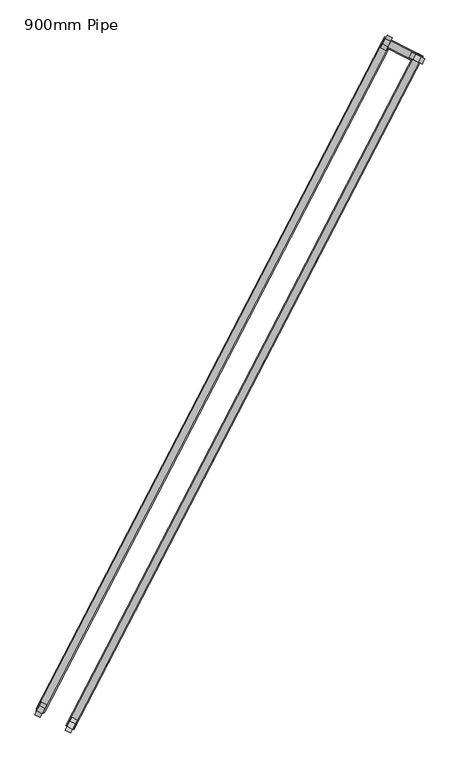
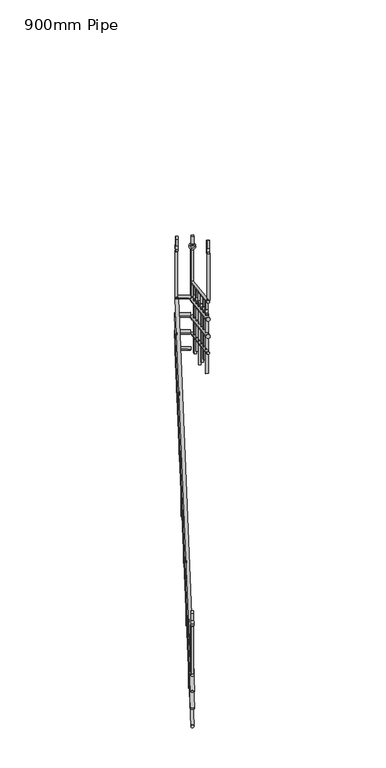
"""IFC4 building model written with IfcOpenShell, lengths in millimetres: railing geometry, 900mm Pipe."""

from ifc_helpers import new_model, si_unit, point, frame, frame_2d, origin, place, context, project, spatial, polyline, circle_curve, ellipse_curve, trimmed, segment, composite_curve, outline, extrude, source, transform, mapped, element, save
from ifc_brep_helpers import plane_surface, cylinder_surface, advanced_brep


def railing_900mm_pipe_73249b27(model_context):
    return source(origin(), model_context, "Body", "SolidModel", [
        advanced_brep(
        [(7201.7798218, -26010.5348664, 871.7326365), (7228.4133798, -26024.3426029, 871.7326365), (8722.6784852, -23076.8937909, 2958.6842105), (8749.3120432, -23090.7015273, 2958.6842105), (8725.3167563, -23071.804865, 2958.6842105), (8752.0624335, -23085.3963363, 2958.6842105)],
        [
            (0, 1, ellipse_curve(frame((7215.0966008, -26017.4387346, 871.7326365), z_axis=(-0.4602578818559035, -0.8877852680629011, 0.0), x_axis=(0.0, 0.0, -1.0)), 17.7410477, 15.0)),
            (1, 0, ellipse_curve(frame((7215.0966008, -26017.4387346, 871.7326365), z_axis=(-0.4602578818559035, -0.8877852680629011, 0.0), x_axis=(0.0, 0.0, -1.0)), 17.7410477, 15.0)),
            (0, 2),
            (2, 3, ellipse_curve(frame((8735.9952642, -23083.7976591, 2958.6842105), z_axis=(-0.44212277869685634, -0.852804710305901, -0.2779416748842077), x_axis=(0.12792484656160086, 0.246752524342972, -0.960597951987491)), 15.6152738, 15.0)),
            (3, 1),
            (3, 2, ellipse_curve(frame((8735.9952642, -23083.7976591, 2958.6842105), z_axis=(-0.44212277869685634, -0.852804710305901, -0.2779416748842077), x_axis=(0.12792484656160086, 0.246752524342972, -0.960597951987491)), 15.6152738, 15.0)),
            (4, 5, ellipse_curve(frame((8738.6895949, -23078.6006006, 2958.6842105), z_axis=(0.45303410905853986, 0.8914931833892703, 0.0), x_axis=(-0.8914931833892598, 0.4530341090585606, 0.0)), 15.0004945, 15.0)),
            (5, 4, ellipse_curve(frame((8738.6895949, -23078.6006006, 2958.6842105), z_axis=(0.45303410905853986, 0.8914931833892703, 0.0), x_axis=(-0.8914931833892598, 0.4530341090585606, 0.0)), 15.0004945, 15.0)),
            (2, 4),
            (5, 3),
        ],
        [
            plane_surface(frame((7215.0966008, -26017.4387346, 889.4736842), z_axis=(-0.4602578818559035, -0.8877852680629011, 0.0), x_axis=(0.8877852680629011, -0.4602578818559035, 0.0))),
            cylinder_surface(frame((7218.7831312, -26010.3278355, 876.7912314), z_axis=(-0.3891465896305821, -0.7506196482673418, -0.5339804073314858), x_axis=(0.8877852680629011, -0.46025788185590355, 0.0)), 15.0),
            plane_surface(frame((8738.6895949, -23078.6006006, 2973.6842105), z_axis=(0.45303410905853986, 0.8914931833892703, 0.0), x_axis=(0.8914931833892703, -0.45303410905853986, 0.0))),
            cylinder_surface(frame((8733.9976827, -23087.6507673, 2958.6842105), z_axis=(-0.4602578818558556, -0.887785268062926, 0.0), x_axis=(0.887785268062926, -0.4602578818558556, 0.0)), 15.0),
        ],
        [
            (0, [[1, 2]]),
            (1, [[-1, 3, 4, 5]]),
            (1, [[-2, -5, 6, -3]]),
            (2, [[7, 8]]),
            (3, [[-4, 9, -8, 10]]),
            (3, [[-6, -10, -7, -9]]),
        ],
    ),
        advanced_brep(
        [(8739.124948, -23045.1704289, 2958.6842105), (8725.3167563, -23071.804865, 2958.6842105), (8873.566552, -23113.4902248, 2958.6842105), (8859.7583603, -23140.1246608, 2958.6842105)],
        [
            (0, 1, ellipse_curve(frame((8732.2208521, -23058.4876469, 2958.6842105), z_axis=(-0.887785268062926, 0.4602578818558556, 0.0), x_axis=(-0.4602578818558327, -0.8877852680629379, 0.0)), 15.0004945, 15.0)),
            (1, 0, ellipse_curve(frame((8732.2208521, -23058.4876469, 2958.6842105), z_axis=(-0.887785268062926, 0.4602578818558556, 0.0), x_axis=(-0.4602578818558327, -0.8877852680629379, 0.0)), 15.0004945, 15.0)),
            (2, 3, ellipse_curve(frame((8866.6624562, -23126.8074428, 2958.6842105), z_axis=(0.8877852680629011, -0.46025788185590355, 0.0), x_axis=(-0.4602578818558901, -0.887785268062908, 0.0)), 15.0004945, 15.0)),
            (3, 2, ellipse_curve(frame((8866.6624562, -23126.8074428, 2958.6842105), z_axis=(0.8877852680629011, -0.46025788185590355, 0.0), x_axis=(-0.4602578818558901, -0.887785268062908, 0.0)), 15.0004945, 15.0)),
            (0, 2),
            (3, 1),
        ],
        [
            plane_surface(frame((8732.2208521, -23058.4876469, 2973.6842105), z_axis=(-0.887785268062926, 0.4602578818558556, 0.0), x_axis=(0.4602578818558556, 0.887785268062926, 0.0))),
            plane_surface(frame((8866.6624562, -23126.8074428, 2973.6842105), z_axis=(0.8877852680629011, -0.46025788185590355, 0.0), x_axis=(0.46025788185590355, 0.8877852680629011, 0.0))),
            cylinder_surface(frame((8732.2208521, -23058.4876469, 2958.6842105), z_axis=(-0.8914931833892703, 0.45303410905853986, 0.0), x_axis=(-0.45303410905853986, -0.8914931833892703, 0.0)), 15.0),
        ],
        [
            (0, [[1, 2]]),
            (1, [[3, 4]]),
            (2, [[-1, 5, -4, 6]]),
            (2, [[-2, -6, -3, -5]]),
        ],
    ),
        advanced_brep(
        [(8900.3122292, -23127.0816961, 3119.6938755), (8873.566552, -23113.4902248, 3119.8477235), (7362.6651288, -26093.0286077, 5229.6273733), (7336.0315707, -26079.2208712, 5229.6273733)],
        [
            (0, 1, ellipse_curve(frame((8886.9393906, -23120.2859604, 3119.7707995), z_axis=(0.45303410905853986, 0.8914931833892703, 0.0), x_axis=(0.011460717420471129, -0.005824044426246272, -0.9999173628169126)), 17.7416326, 15.0)),
            (1, 0, ellipse_curve(frame((8886.9393906, -23120.2859604, 3119.7707995), z_axis=(0.45303410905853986, 0.8914931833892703, 0.0), x_axis=(0.011460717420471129, -0.005824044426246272, -0.9999173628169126)), 17.7416326, 15.0)),
            (2, 3, ellipse_curve(frame((7349.3483498, -26086.1247394, 5229.6273733), z_axis=(-0.46025788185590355, -0.8877852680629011, 0.0), x_axis=(0.0, 0.0, -1.0)), 17.7410477, 15.0)),
            (3, 2, ellipse_curve(frame((7349.3483498, -26086.1247394, 5229.6273733), z_axis=(-0.46025788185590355, -0.8877852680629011, 0.0), x_axis=(0.0, 0.0, -1.0)), 17.7410477, 15.0)),
            (0, 2),
            (3, 1),
        ],
        [
            plane_surface(frame((8886.9393906, -23120.2859604, 3137.5118473), z_axis=(0.45303410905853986, 0.8914931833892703, 0.0), x_axis=(0.8914931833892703, -0.45303410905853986, 0.0))),
            plane_surface(frame((7349.3483498, -26086.1247394, 5247.3684211), z_axis=(-0.46025788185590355, -0.8877852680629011, 0.0), x_axis=(0.8877852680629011, -0.46025788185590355, 0.0))),
            cylinder_surface(frame((8883.2528602, -23127.3968595, 3124.8293945), z_axis=(0.38914658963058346, 0.7506196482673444, -0.5339804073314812), x_axis=(-0.8877852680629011, 0.4602578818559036, 0.0)), 15.0),
        ],
        [
            (0, [[1, 2]]),
            (1, [[3, 4]]),
            (2, [[-1, 5, -4, 6]]),
            (2, [[-2, -6, -3, -5]]),
        ],
    ),
        advanced_brep(
        [(7202.2562693, -25998.7523782, 672.5637472), (7237.76768, -26017.1626935, 672.5637472), (8721.1573512, -23068.9644109, 2756.7742735), (8756.6687619, -23087.3747262, 2756.7742735)],
        [
            (0, 1, circle_curve(frame((7220.0119747, -26007.9575358, 672.5637472), z_axis=(-0.3891465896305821, -0.7506196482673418, -0.5339804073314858), x_axis=(0.8877852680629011, -0.46025788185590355, 0.0)), 20.0)),
            (1, 0, circle_curve(frame((7220.0119747, -26007.9575358, 672.5637472), z_axis=(-0.3891465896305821, -0.7506196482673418, -0.5339804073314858), x_axis=(0.8877852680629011, -0.46025788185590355, 0.0)), 20.0)),
            (2, 3, circle_curve(frame((8738.9130565, -23078.1695685, 2756.7742735), z_axis=(0.3891465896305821, 0.7506196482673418, 0.5339804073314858), x_axis=(0.8877852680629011, -0.46025788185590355, 0.0)), 20.0)),
            (3, 2, circle_curve(frame((8738.9130565, -23078.1695685, 2756.7742735), z_axis=(0.3891465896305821, 0.7506196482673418, 0.5339804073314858), x_axis=(0.8877852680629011, -0.46025788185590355, 0.0)), 20.0)),
            (0, 2),
            (3, 1),
        ],
        [
            plane_surface(frame((7215.0966008, -26040.6256391, 722.0676631), z_axis=(-0.38914658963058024, -0.7506196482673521, -0.5339804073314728), x_axis=(0.9211758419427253, -0.3170958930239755, -0.22557762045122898))),
            plane_surface(frame((8733.9976827, -23110.8376718, 2806.2781894), z_axis=(0.3891465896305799, 0.7506196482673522, 0.533980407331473), x_axis=(0.9211758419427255, -0.3170958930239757, -0.22557762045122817))),
            cylinder_surface(frame((7220.0119747, -26007.9575358, 672.5637472), z_axis=(-0.3891465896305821, -0.7506196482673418, -0.5339804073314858), x_axis=(0.8877852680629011, -0.46025788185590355, 0.0)), 20.0),
        ],
        [
            (0, [[1, 2]]),
            (1, [[3, 4]]),
            (2, [[-1, 5, -4, 6]]),
            (2, [[-2, -6, -3, -5]]),
        ],
    ),
        advanced_brep(
        [(8716.2419773, -23078.4456097, 2753.6842105), (8751.753388, -23096.855925, 2753.6842105), (8718.6325243, -23073.8345157, 2753.6842105), (8754.143935, -23092.2448309, 2753.6842105)],
        [
            (0, 1, circle_curve(frame((8733.9976827, -23087.6507673, 2753.6842105), z_axis=(-0.46025788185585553, -0.887785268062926, 0.0), x_axis=(0.887785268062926, -0.46025788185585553, 0.0)), 20.0)),
            (1, 0, circle_curve(frame((8733.9976827, -23087.6507673, 2753.6842105), z_axis=(-0.46025788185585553, -0.887785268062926, 0.0), x_axis=(0.887785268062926, -0.46025788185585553, 0.0)), 20.0)),
            (2, 3, circle_curve(frame((8736.3882296, -23083.0396733, 2753.6842105), z_axis=(0.46025788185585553, 0.887785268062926, 0.0), x_axis=(0.887785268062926, -0.46025788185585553, 0.0)), 20.0)),
            (3, 2, circle_curve(frame((8736.3882296, -23083.0396733, 2753.6842105), z_axis=(0.46025788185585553, 0.887785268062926, 0.0), x_axis=(0.887785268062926, -0.46025788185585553, 0.0)), 20.0)),
            (0, 2),
            (3, 1),
        ],
        [
            plane_surface(frame((8733.9976827, -23087.6507673, 2813.6842105), z_axis=(-0.4602578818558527, -0.8877852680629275, 0.0), x_axis=(0.8877852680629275, -0.4602578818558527, 0.0))),
            plane_surface(frame((8736.3882296, -23083.0396733, 2813.6842105), z_axis=(0.4602578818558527, 0.8877852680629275, 0.0), x_axis=(0.8877852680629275, -0.4602578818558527, 0.0))),
            cylinder_surface(frame((8733.9976827, -23087.6507673, 2753.6842105), z_axis=(-0.46025788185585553, -0.887785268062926, 0.0), x_axis=(0.887785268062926, -0.46025788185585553, 0.0)), 20.0),
        ],
        [
            (0, [[1, 2]]),
            (1, [[3, 4]]),
            (2, [[-1, 5, -4, 6]]),
            (2, [[-2, -6, -3, -5]]),
        ],
    ),
        advanced_brep(
        [(8736.9687004, -23038.466111, 2753.6842105), (8718.5577782, -23073.9786924, 2753.6842105), (8871.4103044, -23106.7859069, 2753.6842105), (8852.9993822, -23142.2984883, 2753.6842105)],
        [
            (0, 1, ellipse_curve(frame((8727.7632393, -23056.2224017, 2753.6842105), z_axis=(-0.887785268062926, 0.4602578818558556, 0.0), x_axis=(-0.4602578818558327, -0.8877852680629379, 0.0)), 20.0006593, 20.0)),
            (1, 0, ellipse_curve(frame((8727.7632393, -23056.2224017, 2753.6842105), z_axis=(-0.887785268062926, 0.4602578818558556, 0.0), x_axis=(-0.4602578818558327, -0.8877852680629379, 0.0)), 20.0006593, 20.0)),
            (2, 3, ellipse_curve(frame((8862.2048433, -23124.5421976, 2753.6842105), z_axis=(0.8877852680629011, -0.46025788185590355, 0.0), x_axis=(-0.4602578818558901, -0.887785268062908, 0.0)), 20.0006593, 20.0)),
            (3, 2, ellipse_curve(frame((8862.2048433, -23124.5421976, 2753.6842105), z_axis=(0.8877852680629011, -0.46025788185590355, 0.0), x_axis=(-0.4602578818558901, -0.887785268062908, 0.0)), 20.0006593, 20.0)),
            (0, 2),
            (3, 1),
        ],
        [
            plane_surface(frame((8727.7632393, -23056.2224017, 2773.6842105), z_axis=(-0.887785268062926, 0.4602578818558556, 0.0), x_axis=(0.4602578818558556, 0.887785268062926, 0.0))),
            plane_surface(frame((8862.2048433, -23124.5421976, 2773.6842105), z_axis=(0.8877852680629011, -0.46025788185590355, 0.0), x_axis=(0.46025788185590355, 0.8877852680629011, 0.0))),
            cylinder_surface(frame((8727.7632393, -23056.2224017, 2753.6842105), z_axis=(-0.8914931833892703, 0.45303410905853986, 0.0), x_axis=(-0.45303410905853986, -0.8914931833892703, 0.0)), 20.0),
        ],
        [
            (0, [[1, 2]]),
            (1, [[3, 4]]),
            (2, [[-1, 5, -4, 6]]),
            (2, [[-2, -6, -3, -5]]),
        ],
    ),
        advanced_brep(
        [(8907.0712073, -23124.9078686, 2910.5966569), (8871.4103044, -23106.7859069, 2910.8017876), (7367.1040551, -26095.3298971, 5023.7136907), (7331.5926444, -26076.9195818, 5023.7136907)],
        [
            (0, 1, ellipse_curve(frame((8889.2407559, -23115.8468877, 2910.6992222), z_axis=(0.45303410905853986, 0.8914931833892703, 0.0), x_axis=(0.011460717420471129, -0.005824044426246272, -0.9999173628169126)), 23.6555102, 20.0)),
            (1, 0, ellipse_curve(frame((8889.2407559, -23115.8468877, 2910.6992222), z_axis=(0.45303410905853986, 0.8914931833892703, 0.0), x_axis=(0.011460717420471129, -0.005824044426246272, -0.9999173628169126)), 23.6555102, 20.0)),
            (2, 3, ellipse_curve(frame((7349.3483498, -26086.1247394, 5023.7136907), z_axis=(-0.46025788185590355, -0.8877852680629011, 0.0), x_axis=(0.0, 0.0, -1.0)), 23.6547303, 20.0)),
            (3, 2, ellipse_curve(frame((7349.3483498, -26086.1247394, 5023.7136907), z_axis=(-0.46025788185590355, -0.8877852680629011, 0.0), x_axis=(0.0, 0.0, -1.0)), 23.6547303, 20.0)),
            (0, 2),
            (3, 1),
        ],
        [
            plane_surface(frame((8889.2407559, -23115.8468877, 2934.3539525), z_axis=(0.45303410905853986, 0.8914931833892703, 0.0), x_axis=(0.8914931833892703, -0.45303410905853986, 0.0))),
            plane_surface(frame((7349.3483498, -26086.1247394, 5047.3684211), z_axis=(-0.46025788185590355, -0.8877852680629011, 0.0), x_axis=(0.8877852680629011, -0.46025788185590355, 0.0))),
            cylinder_surface(frame((8884.325382, -23125.3280865, 2917.4440155), z_axis=(0.38914658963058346, 0.7506196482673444, -0.5339804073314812), x_axis=(-0.8877852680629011, 0.4602578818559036, 0.0)), 20.0),
        ],
        [
            (0, [[1, 2]]),
            (1, [[3, 4]]),
            (2, [[-1, 5, -4, 6]]),
            (2, [[-2, -6, -3, -5]]),
        ],
    ),
        advanced_brep(
        [(7202.2562693, -25998.7523782, 472.5637472), (7237.76768, -26017.1626935, 472.5637472), (8721.1573512, -23068.9644109, 2556.7742735), (8756.6687619, -23087.3747262, 2556.7742735)],
        [
            (0, 1, circle_curve(frame((7220.0119747, -26007.9575358, 472.5637472), z_axis=(-0.3891465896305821, -0.7506196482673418, -0.5339804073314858), x_axis=(0.8877852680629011, -0.46025788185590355, 0.0)), 20.0)),
            (1, 0, circle_curve(frame((7220.0119747, -26007.9575358, 472.5637472), z_axis=(-0.3891465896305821, -0.7506196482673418, -0.5339804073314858), x_axis=(0.8877852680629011, -0.46025788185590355, 0.0)), 20.0)),
            (2, 3, circle_curve(frame((8738.9130565, -23078.1695685, 2556.7742735), z_axis=(0.3891465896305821, 0.7506196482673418, 0.5339804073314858), x_axis=(0.8877852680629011, -0.46025788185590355, 0.0)), 20.0)),
            (3, 2, circle_curve(frame((8738.9130565, -23078.1695685, 2556.7742735), z_axis=(0.3891465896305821, 0.7506196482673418, 0.5339804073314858), x_axis=(0.8877852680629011, -0.46025788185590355, 0.0)), 20.0)),
            (0, 2),
            (3, 1),
        ],
        [
            plane_surface(frame((7215.0966008, -26040.6256391, 522.0676631), z_axis=(-0.38914658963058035, -0.7506196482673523, -0.5339804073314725), x_axis=(0.9211758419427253, -0.3170958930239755, -0.22557762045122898))),
            plane_surface(frame((8733.9976827, -23110.8376718, 2606.2781894), z_axis=(0.3891465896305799, 0.7506196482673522, 0.533980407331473), x_axis=(0.9211758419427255, -0.3170958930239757, -0.22557762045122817))),
            cylinder_surface(frame((7220.0119747, -26007.9575358, 472.5637472), z_axis=(-0.3891465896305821, -0.7506196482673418, -0.5339804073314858), x_axis=(0.8877852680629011, -0.46025788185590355, 0.0)), 20.0),
        ],
        [
            (0, [[1, 2]]),
            (1, [[3, 4]]),
            (2, [[-1, 5, -4, 6]]),
            (2, [[-2, -6, -3, -5]]),
        ],
    ),
        advanced_brep(
        [(8716.2419773, -23078.4456097, 2553.6842105), (8751.753388, -23096.855925, 2553.6842105), (8718.6325243, -23073.8345157, 2553.6842105), (8754.143935, -23092.2448309, 2553.6842105)],
        [
            (0, 1, circle_curve(frame((8733.9976827, -23087.6507673, 2553.6842105), z_axis=(-0.46025788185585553, -0.887785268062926, 0.0), x_axis=(0.887785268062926, -0.46025788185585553, 0.0)), 20.0)),
            (1, 0, circle_curve(frame((8733.9976827, -23087.6507673, 2553.6842105), z_axis=(-0.46025788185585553, -0.887785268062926, 0.0), x_axis=(0.887785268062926, -0.46025788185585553, 0.0)), 20.0)),
            (2, 3, circle_curve(frame((8736.3882296, -23083.0396733, 2553.6842105), z_axis=(0.46025788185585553, 0.887785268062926, 0.0), x_axis=(0.887785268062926, -0.46025788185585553, 0.0)), 20.0)),
            (3, 2, circle_curve(frame((8736.3882296, -23083.0396733, 2553.6842105), z_axis=(0.46025788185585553, 0.887785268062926, 0.0), x_axis=(0.887785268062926, -0.46025788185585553, 0.0)), 20.0)),
            (0, 2),
            (3, 1),
        ],
        [
            plane_surface(frame((8733.9976827, -23087.6507673, 2613.6842105), z_axis=(-0.4602578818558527, -0.8877852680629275, 0.0), x_axis=(0.8877852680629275, -0.4602578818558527, 0.0))),
            plane_surface(frame((8736.3882296, -23083.0396733, 2613.6842105), z_axis=(0.4602578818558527, 0.8877852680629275, 0.0), x_axis=(0.8877852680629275, -0.4602578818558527, 0.0))),
            cylinder_surface(frame((8733.9976827, -23087.6507673, 2553.6842105), z_axis=(-0.46025788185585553, -0.887785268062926, 0.0), x_axis=(0.887785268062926, -0.46025788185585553, 0.0)), 20.0),
        ],
        [
            (0, [[1, 2]]),
            (1, [[3, 4]]),
            (2, [[-1, 5, -4, 6]]),
            (2, [[-2, -6, -3, -5]]),
        ],
    ),
        advanced_brep(
        [(8736.9687004, -23038.466111, 2553.6842105), (8718.5577782, -23073.9786924, 2553.6842105), (8871.4103044, -23106.7859069, 2553.6842105), (8852.9993822, -23142.2984883, 2553.6842105)],
        [
            (0, 1, ellipse_curve(frame((8727.7632393, -23056.2224017, 2553.6842105), z_axis=(-0.887785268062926, 0.4602578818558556, 0.0), x_axis=(-0.4602578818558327, -0.8877852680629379, 0.0)), 20.0006593, 20.0)),
            (1, 0, ellipse_curve(frame((8727.7632393, -23056.2224017, 2553.6842105), z_axis=(-0.887785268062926, 0.4602578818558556, 0.0), x_axis=(-0.4602578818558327, -0.8877852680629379, 0.0)), 20.0006593, 20.0)),
            (2, 3, ellipse_curve(frame((8862.2048433, -23124.5421976, 2553.6842105), z_axis=(0.8877852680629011, -0.46025788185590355, 0.0), x_axis=(-0.4602578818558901, -0.887785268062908, 0.0)), 20.0006593, 20.0)),
            (3, 2, ellipse_curve(frame((8862.2048433, -23124.5421976, 2553.6842105), z_axis=(0.8877852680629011, -0.46025788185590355, 0.0), x_axis=(-0.4602578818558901, -0.887785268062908, 0.0)), 20.0006593, 20.0)),
            (0, 2),
            (3, 1),
        ],
        [
            plane_surface(frame((8727.7632393, -23056.2224017, 2573.6842105), z_axis=(-0.887785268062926, 0.4602578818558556, 0.0), x_axis=(0.4602578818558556, 0.887785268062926, 0.0))),
            plane_surface(frame((8862.2048433, -23124.5421976, 2573.6842105), z_axis=(0.8877852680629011, -0.46025788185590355, 0.0), x_axis=(0.46025788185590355, 0.8877852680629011, 0.0))),
            cylinder_surface(frame((8727.7632393, -23056.2224017, 2553.6842105), z_axis=(-0.8914931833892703, 0.45303410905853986, 0.0), x_axis=(-0.45303410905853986, -0.8914931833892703, 0.0)), 20.0),
        ],
        [
            (0, [[1, 2]]),
            (1, [[3, 4]]),
            (2, [[-1, 5, -4, 6]]),
            (2, [[-2, -6, -3, -5]]),
        ],
    ),
        advanced_brep(
        [(8907.0712073, -23124.9078686, 2710.5966569), (8871.4103044, -23106.7859069, 2710.8017876), (7367.1040551, -26095.3298971, 4823.7136907), (7331.5926444, -26076.9195818, 4823.7136907)],
        [
            (0, 1, ellipse_curve(frame((8889.2407559, -23115.8468877, 2710.6992222), z_axis=(0.45303410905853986, 0.8914931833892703, 0.0), x_axis=(0.011460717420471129, -0.005824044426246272, -0.9999173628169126)), 23.6555102, 20.0)),
            (1, 0, ellipse_curve(frame((8889.2407559, -23115.8468877, 2710.6992222), z_axis=(0.45303410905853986, 0.8914931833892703, 0.0), x_axis=(0.011460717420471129, -0.005824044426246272, -0.9999173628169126)), 23.6555102, 20.0)),
            (2, 3, ellipse_curve(frame((7349.3483498, -26086.1247394, 4823.7136907), z_axis=(-0.46025788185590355, -0.8877852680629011, 0.0), x_axis=(0.0, 0.0, -1.0)), 23.6547303, 20.0)),
            (3, 2, ellipse_curve(frame((7349.3483498, -26086.1247394, 4823.7136907), z_axis=(-0.46025788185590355, -0.8877852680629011, 0.0), x_axis=(0.0, 0.0, -1.0)), 23.6547303, 20.0)),
            (0, 2),
            (3, 1),
        ],
        [
            plane_surface(frame((8889.2407559, -23115.8468877, 2734.3539525), z_axis=(0.45303410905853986, 0.8914931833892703, 0.0), x_axis=(0.8914931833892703, -0.45303410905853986, 0.0))),
            plane_surface(frame((7349.3483498, -26086.1247394, 4847.3684211), z_axis=(-0.46025788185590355, -0.8877852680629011, 0.0), x_axis=(0.8877852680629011, -0.46025788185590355, 0.0))),
            cylinder_surface(frame((8884.325382, -23125.3280865, 2717.4440155), z_axis=(0.38914658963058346, 0.7506196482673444, -0.5339804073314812), x_axis=(-0.8877852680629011, 0.4602578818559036, 0.0)), 20.0),
        ],
        [
            (0, [[1, 2]]),
            (1, [[3, 4]]),
            (2, [[-1, 5, -4, 6]]),
            (2, [[-2, -6, -3, -5]]),
        ],
    ),
        advanced_brep(
        [(7201.7798218, -26010.5348664, 271.7326365), (7228.4133798, -26024.3426029, 271.7326365), (8722.6784852, -23076.8937909, 2358.6842105), (8749.3120432, -23090.7015273, 2358.6842105), (8725.3167563, -23071.804865, 2358.6842105), (8752.0624335, -23085.3963363, 2358.6842105)],
        [
            (0, 1, ellipse_curve(frame((7215.0966008, -26017.4387346, 271.7326365), z_axis=(-0.4602578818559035, -0.8877852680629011, 0.0), x_axis=(0.0, 0.0, -1.0)), 17.7410477, 15.0)),
            (1, 0, ellipse_curve(frame((7215.0966008, -26017.4387346, 271.7326365), z_axis=(-0.4602578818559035, -0.8877852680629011, 0.0), x_axis=(0.0, 0.0, -1.0)), 17.7410477, 15.0)),
            (0, 2),
            (2, 3, ellipse_curve(frame((8735.9952642, -23083.7976591, 2358.6842105), z_axis=(-0.44212277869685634, -0.852804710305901, -0.2779416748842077), x_axis=(0.12792484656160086, 0.246752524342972, -0.960597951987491)), 15.6152738, 15.0)),
            (3, 1),
            (3, 2, ellipse_curve(frame((8735.9952642, -23083.7976591, 2358.6842105), z_axis=(-0.44212277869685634, -0.852804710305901, -0.2779416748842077), x_axis=(0.12792484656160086, 0.246752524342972, -0.960597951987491)), 15.6152738, 15.0)),
            (4, 5, ellipse_curve(frame((8738.6895949, -23078.6006006, 2358.6842105), z_axis=(0.45303410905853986, 0.8914931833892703, 0.0), x_axis=(-0.8914931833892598, 0.4530341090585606, 0.0)), 15.0004945, 15.0)),
            (5, 4, ellipse_curve(frame((8738.6895949, -23078.6006006, 2358.6842105), z_axis=(0.45303410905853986, 0.8914931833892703, 0.0), x_axis=(-0.8914931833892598, 0.4530341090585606, 0.0)), 15.0004945, 15.0)),
            (2, 4),
            (5, 3),
        ],
        [
            plane_surface(frame((7215.0966008, -26017.4387346, 289.4736842), z_axis=(-0.4602578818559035, -0.8877852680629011, 0.0), x_axis=(0.8877852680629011, -0.4602578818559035, 0.0))),
            cylinder_surface(frame((7218.7831312, -26010.3278355, 276.7912314), z_axis=(-0.3891465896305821, -0.7506196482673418, -0.5339804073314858), x_axis=(0.8877852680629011, -0.46025788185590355, 0.0)), 15.0),
            plane_surface(frame((8738.6895949, -23078.6006006, 2373.6842105), z_axis=(0.45303410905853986, 0.8914931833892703, 0.0), x_axis=(0.8914931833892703, -0.45303410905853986, 0.0))),
            cylinder_surface(frame((8733.9976827, -23087.6507673, 2358.6842105), z_axis=(-0.4602578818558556, -0.887785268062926, 0.0), x_axis=(0.887785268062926, -0.4602578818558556, 0.0)), 15.0),
        ],
        [
            (0, [[1, 2]]),
            (1, [[-1, 3, 4, 5]]),
            (1, [[-2, -5, 6, -3]]),
            (2, [[7, 8]]),
            (3, [[-4, 9, -8, 10]]),
            (3, [[-6, -10, -7, -9]]),
        ],
    ),
        advanced_brep(
        [(8739.124948, -23045.1704289, 2358.6842105), (8725.3167563, -23071.804865, 2358.6842105), (8873.566552, -23113.4902248, 2358.6842105), (8859.7583603, -23140.1246608, 2358.6842105)],
        [
            (0, 1, ellipse_curve(frame((8732.2208521, -23058.4876469, 2358.6842105), z_axis=(-0.887785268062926, 0.4602578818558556, 0.0), x_axis=(-0.4602578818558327, -0.8877852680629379, 0.0)), 15.0004945, 15.0)),
            (1, 0, ellipse_curve(frame((8732.2208521, -23058.4876469, 2358.6842105), z_axis=(-0.887785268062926, 0.4602578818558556, 0.0), x_axis=(-0.4602578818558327, -0.8877852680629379, 0.0)), 15.0004945, 15.0)),
            (2, 3, ellipse_curve(frame((8866.6624562, -23126.8074428, 2358.6842105), z_axis=(0.8877852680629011, -0.46025788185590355, 0.0), x_axis=(-0.4602578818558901, -0.887785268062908, 0.0)), 15.0004945, 15.0)),
            (3, 2, ellipse_curve(frame((8866.6624562, -23126.8074428, 2358.6842105), z_axis=(0.8877852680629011, -0.46025788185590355, 0.0), x_axis=(-0.4602578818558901, -0.887785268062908, 0.0)), 15.0004945, 15.0)),
            (0, 2),
            (3, 1),
        ],
        [
            plane_surface(frame((8732.2208521, -23058.4876469, 2373.6842105), z_axis=(-0.887785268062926, 0.4602578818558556, 0.0), x_axis=(0.4602578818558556, 0.887785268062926, 0.0))),
            plane_surface(frame((8866.6624562, -23126.8074428, 2373.6842105), z_axis=(0.8877852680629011, -0.46025788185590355, 0.0), x_axis=(0.46025788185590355, 0.8877852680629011, 0.0))),
            cylinder_surface(frame((8732.2208521, -23058.4876469, 2358.6842105), z_axis=(-0.8914931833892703, 0.45303410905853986, 0.0), x_axis=(-0.45303410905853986, -0.8914931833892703, 0.0)), 15.0),
        ],
        [
            (0, [[1, 2]]),
            (1, [[3, 4]]),
            (2, [[-1, 5, -4, 6]]),
            (2, [[-2, -6, -3, -5]]),
        ],
    ),
        advanced_brep(
        [(8900.3122292, -23127.0816961, 2519.6938755), (8873.566552, -23113.4902248, 2519.8477235), (7362.6651288, -26093.0286077, 4629.6273733), (7336.0315707, -26079.2208712, 4629.6273733)],
        [
            (0, 1, ellipse_curve(frame((8886.9393906, -23120.2859604, 2519.7707995), z_axis=(0.45303410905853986, 0.8914931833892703, 0.0), x_axis=(0.011460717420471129, -0.005824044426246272, -0.9999173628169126)), 17.7416326, 15.0)),
            (1, 0, ellipse_curve(frame((8886.9393906, -23120.2859604, 2519.7707995), z_axis=(0.45303410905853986, 0.8914931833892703, 0.0), x_axis=(0.011460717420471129, -0.005824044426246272, -0.9999173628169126)), 17.7416326, 15.0)),
            (2, 3, ellipse_curve(frame((7349.3483498, -26086.1247394, 4629.6273733), z_axis=(-0.46025788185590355, -0.8877852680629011, 0.0), x_axis=(0.0, 0.0, -1.0)), 17.7410477, 15.0)),
            (3, 2, ellipse_curve(frame((7349.3483498, -26086.1247394, 4629.6273733), z_axis=(-0.46025788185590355, -0.8877852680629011, 0.0), x_axis=(0.0, 0.0, -1.0)), 17.7410477, 15.0)),
            (0, 2),
            (3, 1),
        ],
        [
            plane_surface(frame((8886.9393906, -23120.2859604, 2537.5118473), z_axis=(0.45303410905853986, 0.8914931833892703, 0.0), x_axis=(0.8914931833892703, -0.45303410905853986, 0.0))),
            plane_surface(frame((7349.3483498, -26086.1247394, 4647.3684211), z_axis=(-0.46025788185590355, -0.8877852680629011, 0.0), x_axis=(0.8877852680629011, -0.46025788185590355, 0.0))),
            cylinder_surface(frame((8883.2528602, -23127.3968595, 2524.8293945), z_axis=(0.38914658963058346, 0.7506196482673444, -0.5339804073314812), x_axis=(-0.8877852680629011, 0.4602578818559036, 0.0)), 15.0),
        ],
        [
            (0, [[1, 2]]),
            (1, [[3, 4]]),
            (2, [[-1, 5, -4, 6]]),
            (2, [[-2, -6, -3, -5]]),
        ],
    ),
        extrude(outline(composite_curve([segment(trimmed(circle_curve(frame_2d((0.0, -31.7499999)), 31.75), [point((0.0, -63.4999999))], [point((0.0, 0.0))], False, "CARTESIAN"), True, "CONTINUOUS"), segment(trimmed(circle_curve(frame_2d((0.0, -31.7499999)), 31.75), [point((0.0, 0.0))], [point((0.0, -63.4999999))], False, "CARTESIAN"), True, "CONTINUOUS")], self_intersect=False), holes=[composite_curve([segment(trimmed(circle_curve(frame_2d((0.0, -31.7499999)), 12.7), [point((0.0, -44.4499999))], [point((0.0, -19.0499999))], True, "CARTESIAN"), True, "CONTINUOUS"), segment(trimmed(circle_curve(frame_2d((0.0, -31.7499999)), 12.7), [point((0.0, -19.0499999))], [point((0.0, -44.4499999))], True, "CARTESIAN"), True, "CONTINUOUS")], self_intersect=False)]), frame((7525.1497098, -25774.6170755, 4891.0411429), z_axis=(-0.887785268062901, 0.4602578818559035, 0.0), x_axis=(0.0, 0.0, 1.0000000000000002)), (0.0, 0.0, 1.0), 25.4),
        extrude(outline(polyline([(7498.1120884, -25778.4814352), (7520.6618342, -25790.1719854), (7508.971284, -25812.7217312), (7486.4215382, -25801.031181), (7498.1120884, -25778.4814352)])), frame((0.0, 0.0, 4168.4210526), z_axis=(0.0, 0.0, 1.0), x_axis=(1.0, 0.0, 0.0)), (0.0, 0.0, 1.0), 690.8700902),
        extrude(outline(polyline([(317.5, 0.0), (317.5, -25.4), (236.6207882, -25.4), (220.5792118, 0.0), (317.5, 0.0)])), frame((7504.691247, -25814.0791306, 5240.2911429), z_axis=(-0.887785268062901, 0.4602578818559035, 0.0), x_axis=(0.0, 0.0, -1.0000000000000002)), (0.0, 0.0, 1.0), 25.4),
        extrude(outline(composite_curve([segment(trimmed(circle_curve(frame_2d((0.0, -31.7500001)), 31.75), [point((0.0, -63.5000001))], [point((0.0, 0.0))], False, "CARTESIAN"), True, "CONTINUOUS"), segment(trimmed(circle_curve(frame_2d((0.0, -31.7500001)), 31.75), [point((0.0, 0.0))], [point((0.0, -63.5000001))], False, "CARTESIAN"), True, "CONTINUOUS")], self_intersect=False), holes=[composite_curve([segment(trimmed(circle_curve(frame_2d((0.0, -31.7500001)), 12.7), [point((0.0, -44.4500001))], [point((0.0, -19.0500001))], True, "CARTESIAN"), True, "CONTINUOUS"), segment(trimmed(circle_curve(frame_2d((0.0, -31.7500001)), 12.7), [point((0.0, -19.0500001))], [point((0.0, -44.4500001))], True, "CARTESIAN"), True, "CONTINUOUS")], self_intersect=False)]), frame((7755.2786508, -25330.7244414, 4575.2620794), z_axis=(-0.887785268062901, 0.4602578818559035, 0.0), x_axis=(0.0, 0.0, 1.0000000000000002)), (0.0, 0.0, 1.0), 25.4),
        extrude(outline(polyline([(7728.2410293, -25334.5888012), (7750.7907751, -25346.2793514), (7739.1002249, -25368.8290972), (7716.5504791, -25357.138547), (7728.2410293, -25334.5888012)])), frame((0.0, 0.0, 3978.9473684), z_axis=(0.0, 0.0, 1.0), x_axis=(1.0, 0.0, 0.0)), (0.0, 0.0, 1.0), 564.564711),
        extrude(outline(polyline([(317.5, 0.0), (317.5, -25.4), (236.6207882, -25.4), (220.5792118, 0.0), (317.5, 0.0)])), frame((7734.8201879, -25370.1864966, 4924.5120794), z_axis=(-0.887785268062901, 0.4602578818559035, 0.0), x_axis=(0.0, 0.0, -1.0000000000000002)), (0.0, 0.0, 1.0), 25.4),
        extrude(outline(composite_curve([segment(trimmed(circle_curve(frame_2d((0.0, -31.75)), 31.75), [point((0.0, -63.5))], [point((0.0, 0.0))], False, "CARTESIAN"), True, "CONTINUOUS"), segment(trimmed(circle_curve(frame_2d((0.0, -31.75)), 31.75), [point((0.0, 0.0))], [point((0.0, -63.5))], False, "CARTESIAN"), True, "CONTINUOUS")], self_intersect=False), holes=[composite_curve([segment(trimmed(circle_curve(frame_2d((0.0, -31.75)), 12.7), [point((0.0, -44.45))], [point((0.0, -19.05))], True, "CARTESIAN"), True, "CONTINUOUS"), segment(trimmed(circle_curve(frame_2d((0.0, -31.75)), 12.7), [point((0.0, -19.05))], [point((0.0, -44.45))], True, "CARTESIAN"), True, "CONTINUOUS")], self_intersect=False)]), frame((7985.4075917, -24886.8318074, 4259.483016), z_axis=(-0.887785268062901, 0.4602578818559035, 0.0), x_axis=(0.0, 0.0, 1.0000000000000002)), (0.0, 0.0, 1.0), 25.4),
        extrude(outline(polyline([(7958.3699702, -24890.6961671), (7980.9197161, -24902.3867173), (7969.2291659, -24924.9364631), (7946.67942, -24913.2459129), (7958.3699702, -24890.6961671)])), frame((0.0, 0.0, 3600.0), z_axis=(0.0, 0.0, 1.0), x_axis=(1.0, 0.0, 0.0)), (0.0, 0.0, 1.0), 627.733016),
        extrude(outline(polyline([(317.5, 0.0), (317.5, -25.4), (236.6207882, -25.4), (220.5792118, 0.0), (317.5, 0.0)])), frame((7964.9491289, -24926.2938626, 4608.733016), z_axis=(-0.887785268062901, 0.4602578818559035, 0.0), x_axis=(0.0, 0.0, -1.0000000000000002)), (0.0, 0.0, 1.0), 25.4),
        extrude(outline(composite_curve([segment(trimmed(circle_curve(frame_2d((0.0, -31.7499999)), 31.75), [point((0.0, -63.5))], [point((0.0, 0.0))], False, "CARTESIAN"), True, "CONTINUOUS"), segment(trimmed(circle_curve(frame_2d((0.0, -31.7499999)), 31.75), [point((0.0, 0.0))], [point((0.0, -63.5))], False, "CARTESIAN"), True, "CONTINUOUS")], self_intersect=False), holes=[composite_curve([segment(trimmed(circle_curve(frame_2d((0.0, -31.7499999)), 12.7), [point((0.0, -44.4499999))], [point((0.0, -19.0499999))], True, "CARTESIAN"), True, "CONTINUOUS"), segment(trimmed(circle_curve(frame_2d((0.0, -31.7499999)), 12.7), [point((0.0, -19.0499999))], [point((0.0, -44.4499999))], True, "CARTESIAN"), True, "CONTINUOUS")], self_intersect=False)]), frame((8215.5365326, -24442.9391734, 3943.6727218), z_axis=(-0.887785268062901, 0.4602578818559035, 0.0), x_axis=(0.0, 0.0, 1.0000000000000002)), (0.0, 0.0, 1.0), 25.4),
        extrude(outline(polyline([(8188.4989112, -24446.8035331), (8211.048657, -24458.4940833), (8199.3581068, -24481.0438291), (8176.808361, -24469.3532789), (8188.4989112, -24446.8035331)])), frame((0.0, 0.0, 3221.0526316), z_axis=(0.0, 0.0, 1.0), x_axis=(1.0, 0.0, 0.0)), (0.0, 0.0, 1.0), 690.8700902),
        extrude(outline(polyline([(317.5, 0.0), (317.5, -25.4), (236.6207882, -25.4), (220.5792118, 0.0), (317.5, 0.0)])), frame((8195.0780698, -24482.4012285, 4292.9227218), z_axis=(-0.887785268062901, 0.4602578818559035, 0.0), x_axis=(0.0, 0.0, -1.0000000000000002)), (0.0, 0.0, 1.0), 25.4),
        extrude(outline(composite_curve([segment(trimmed(circle_curve(frame_2d((0.0, -31.75)), 31.75), [point((0.0, -63.5))], [point((0.0, 0.0))], False, "CARTESIAN"), True, "CONTINUOUS"), segment(trimmed(circle_curve(frame_2d((0.0, -31.75)), 31.75), [point((0.0, 0.0))], [point((0.0, -63.5))], False, "CARTESIAN"), True, "CONTINUOUS")], self_intersect=False), holes=[composite_curve([segment(trimmed(circle_curve(frame_2d((0.0, -31.75)), 12.7), [point((0.0, -44.45))], [point((0.0, -19.05))], True, "CARTESIAN"), True, "CONTINUOUS"), segment(trimmed(circle_curve(frame_2d((0.0, -31.75)), 12.7), [point((0.0, -19.05))], [point((0.0, -44.45))], True, "CARTESIAN"), True, "CONTINUOUS")], self_intersect=False)]), frame((8445.6654736, -23999.0465394, 3627.8936584), z_axis=(-0.887785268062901, 0.4602578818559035, 0.0), x_axis=(0.0, 0.0, 1.0000000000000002)), (0.0, 0.0, 1.0), 25.4),
        extrude(outline(polyline([(8418.6278521, -24002.9108991), (8441.1775979, -24014.6014493), (8429.4870477, -24037.1511951), (8406.9373019, -24025.4606449), (8418.6278521, -24002.9108991)])), frame((0.0, 0.0, 3031.5789474), z_axis=(0.0, 0.0, 1.0), x_axis=(1.0, 0.0, 0.0)), (0.0, 0.0, 1.0), 564.564711),
        extrude(outline(polyline([(317.5, 0.0), (317.5, -25.4), (236.6207882, -25.4), (220.5792118, 0.0), (317.5, 0.0)])), frame((8425.2070107, -24038.5085945, 3977.1436584), z_axis=(-0.887785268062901, 0.4602578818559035, 0.0), x_axis=(0.0, 0.0, -1.0000000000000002)), (0.0, 0.0, 1.0), 25.4),
        extrude(outline(composite_curve([segment(trimmed(circle_curve(frame_2d((0.0, -31.7500001)), 31.75), [point((0.0, -63.5))], [point((0.0, 0.0))], False, "CARTESIAN"), True, "CONTINUOUS"), segment(trimmed(circle_curve(frame_2d((0.0, -31.7500001)), 31.75), [point((0.0, 0.0))], [point((0.0, -63.5))], False, "CARTESIAN"), True, "CONTINUOUS")], self_intersect=False), holes=[composite_curve([segment(trimmed(circle_curve(frame_2d((0.0, -31.7500001)), 12.7), [point((0.0, -44.4500001))], [point((0.0, -19.0500001))], True, "CARTESIAN"), True, "CONTINUOUS"), segment(trimmed(circle_curve(frame_2d((0.0, -31.7500001)), 12.7), [point((0.0, -19.0500001))], [point((0.0, -44.4500001))], True, "CARTESIAN"), True, "CONTINUOUS")], self_intersect=False)]), frame((8675.7944145, -23555.1539053, 3312.1145949), z_axis=(-0.887785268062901, 0.4602578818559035, 0.0), x_axis=(0.0, 0.0, 1.0000000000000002)), (0.0, 0.0, 1.0), 25.4),
        extrude(outline(polyline([(8648.756793, -23559.018265), (8671.3065388, -23570.7088152), (8659.6159886, -23593.258561), (8637.0662428, -23581.5680108), (8648.756793, -23559.018265)])), frame((0.0, 0.0, 2652.6315789), z_axis=(0.0, 0.0, 1.0), x_axis=(1.0, 0.0, 0.0)), (0.0, 0.0, 1.0), 627.733016),
        extrude(outline(polyline([(317.5, 0.0), (317.5, -25.4), (236.6207882, -25.4), (220.5792118, 0.0), (317.5, 0.0)])), frame((8655.3359516, -23594.6159605, 3661.3645949), z_axis=(-0.887785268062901, 0.4602578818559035, 0.0), x_axis=(0.0, 0.0, -1.0000000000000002)), (0.0, 0.0, 1.0), 25.4),
        extrude(outline(composite_curve([segment(trimmed(circle_curve(frame_2d((0.0, -31.7500001)), 31.75), [point((0.0, -63.5))], [point((0.0, 0.0))], False, "CARTESIAN"), True, "CONTINUOUS"), segment(trimmed(circle_curve(frame_2d((0.0, -31.7500001)), 31.75), [point((0.0, 0.0))], [point((0.0, -63.5))], False, "CARTESIAN"), True, "CONTINUOUS")], self_intersect=False), holes=[composite_curve([segment(trimmed(circle_curve(frame_2d((0.0, -31.7500001)), 12.7), [point((0.0, -44.4500001))], [point((0.0, -19.0500001))], True, "CARTESIAN"), True, "CONTINUOUS"), segment(trimmed(circle_curve(frame_2d((0.0, -31.7500001)), 12.7), [point((0.0, -19.0500001))], [point((0.0, -44.4500001))], True, "CARTESIAN"), True, "CONTINUOUS")], self_intersect=False)]), frame((8592.5319315, -23388.1153878, 2633.4980649), z_axis=(-0.8877852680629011, 0.46025788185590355, 0.0), x_axis=(0.0, 0.0, -1.0)), (0.0, 0.0, 1.0), 25.4),
        extrude(outline(polyline([(8597.0198072, -23372.5604779), (8574.4700614, -23360.8699277), (8586.1606116, -23338.3201819), (8608.7103574, -23350.0107321), (8597.0198072, -23372.5604779)])), frame((0.0, 0.0, 2084.1480649), z_axis=(0.0, 0.0, 1.0), x_axis=(1.0, 0.0, 0.0)), (0.0, 0.0, 1.0), 517.6),
        extrude(outline(polyline([(317.5, 0.0), (317.5, -25.4), (220.5792118, -25.4), (236.6207882, 0.0), (317.5, 0.0)])), frame((8601.2998442, -23371.2030784, 2982.7480649), z_axis=(-0.8877852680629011, 0.46025788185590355, 0.0), x_axis=(0.0, 0.0, -1.0)), (0.0, 0.0, 1.0), 25.4),
        extrude(outline(composite_curve([segment(trimmed(circle_curve(frame_2d((0.0, -31.75)), 31.75), [point((0.0, -63.5))], [point((0.0, 0.0))], False, "CARTESIAN"), True, "CONTINUOUS"), segment(trimmed(circle_curve(frame_2d((0.0, -31.75)), 31.75), [point((0.0, 0.0))], [point((0.0, -63.5))], False, "CARTESIAN"), True, "CONTINUOUS")], self_intersect=False), holes=[composite_curve([segment(trimmed(circle_curve(frame_2d((0.0, -31.75)), 12.7), [point((0.0, -44.45))], [point((0.0, -19.05))], True, "CARTESIAN"), True, "CONTINUOUS"), segment(trimmed(circle_curve(frame_2d((0.0, -31.75)), 12.7), [point((0.0, -19.05))], [point((0.0, -44.45))], True, "CARTESIAN"), True, "CONTINUOUS")], self_intersect=False)]), frame((8362.4029906, -23832.0080218, 2317.7502321), z_axis=(-0.8877852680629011, 0.46025788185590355, 0.0), x_axis=(0.0, 0.0, -1.0)), (0.0, 0.0, 1.0), 25.4),
        extrude(outline(polyline([(8366.8908663, -23816.4531119), (8344.3411205, -23804.7625617), (8356.0316707, -23782.2128159), (8378.5814165, -23793.9033661), (8366.8908663, -23816.4531119)])), frame((0.0, 0.0, 1705.2631579), z_axis=(0.0, 0.0, 1.0), x_axis=(1.0, 0.0, 0.0)), (0.0, 0.0, 1.0), 580.7370743),
        extrude(outline(polyline([(317.5, 0.0), (317.5, -25.4), (220.5792117, -25.4), (236.6207882, 0.0), (317.5, 0.0)])), frame((8371.1709033, -23815.0957125, 2667.0002321), z_axis=(-0.8877852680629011, 0.46025788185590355, 0.0), x_axis=(0.0, 0.0, -1.0)), (0.0, 0.0, 1.0), 25.4),
        extrude(outline(composite_curve([segment(trimmed(circle_curve(frame_2d((0.0, -31.75)), 31.75), [point((0.0, -63.5000001))], [point((0.0, 0.0))], False, "CARTESIAN"), True, "CONTINUOUS"), segment(trimmed(circle_curve(frame_2d((0.0, -31.75)), 31.75), [point((0.0, 0.0))], [point((0.0, -63.5000001))], False, "CARTESIAN"), True, "CONTINUOUS")], self_intersect=False), holes=[composite_curve([segment(trimmed(circle_curve(frame_2d((0.0, -31.75)), 12.7), [point((0.0, -44.45))], [point((0.0, -19.05))], True, "CARTESIAN"), True, "CONTINUOUS"), segment(trimmed(circle_curve(frame_2d((0.0, -31.75)), 12.7), [point((0.0, -19.05))], [point((0.0, -44.45))], True, "CARTESIAN"), True, "CONTINUOUS")], self_intersect=False)]), frame((8132.2740497, -24275.9006559, 2001.9711687), z_axis=(-0.8877852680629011, 0.46025788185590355, 0.0), x_axis=(0.0, 0.0, -1.0)), (0.0, 0.0, 1.0), 25.4),
        extrude(outline(polyline([(8136.7619253, -24260.345746), (8114.2121795, -24248.6551958), (8125.9027297, -24226.1054499), (8148.4524755, -24237.7960001), (8136.7619253, -24260.345746)])), frame((0.0, 0.0, 1326.3157895), z_axis=(0.0, 0.0, 1.0), x_axis=(1.0, 0.0, 0.0)), (0.0, 0.0, 1.0), 643.9053792),
        extrude(outline(polyline([(317.5, 0.0), (317.5, -25.4), (220.5792118, -25.4), (236.6207882, 0.0), (317.5, 0.0)])), frame((8141.0419623, -24258.9883465, 2351.2211687), z_axis=(-0.8877852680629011, 0.46025788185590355, 0.0), x_axis=(0.0, 0.0, -1.0)), (0.0, 0.0, 1.0), 25.4),
        extrude(outline(composite_curve([segment(trimmed(circle_curve(frame_2d((0.0, -31.75)), 31.75), [point((0.0, -63.5))], [point((0.0, 0.0))], False, "CARTESIAN"), True, "CONTINUOUS"), segment(trimmed(circle_curve(frame_2d((0.0, -31.75)), 31.75), [point((0.0, 0.0))], [point((0.0, -63.5))], False, "CARTESIAN"), True, "CONTINUOUS")], self_intersect=False), holes=[composite_curve([segment(trimmed(circle_curve(frame_2d((0.0, -31.75)), 12.7), [point((0.0, -44.45))], [point((0.0, -19.05))], True, "CARTESIAN"), True, "CONTINUOUS"), segment(trimmed(circle_curve(frame_2d((0.0, -31.75)), 12.7), [point((0.0, -19.05))], [point((0.0, -44.45))], True, "CARTESIAN"), True, "CONTINUOUS")], self_intersect=False)]), frame((7902.1451088, -24719.7932899, 1686.1608745), z_axis=(-0.8877852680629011, 0.46025788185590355, 0.0), x_axis=(0.0, 0.0, -1.0)), (0.0, 0.0, 1.0), 25.4),
        extrude(outline(polyline([(7906.6329844, -24704.23838), (7884.0832386, -24692.5478298), (7895.7737888, -24669.998084), (7918.3235346, -24681.6886342), (7906.6329844, -24704.23838)])), frame((0.0, 0.0, 1136.8108745), z_axis=(0.0, 0.0, 1.0), x_axis=(1.0, 0.0, 0.0)), (0.0, 0.0, 1.0), 517.6),
        extrude(outline(polyline([(317.5, 0.0), (317.5, -25.4), (220.5792117, -25.4), (236.6207882, 0.0), (317.5, 0.0)])), frame((7910.9130214, -24702.8809805, 2035.4108745), z_axis=(-0.8877852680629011, 0.46025788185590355, 0.0), x_axis=(0.0, 0.0, -1.0)), (0.0, 0.0, 1.0), 25.4),
        extrude(outline(composite_curve([segment(trimmed(circle_curve(frame_2d((0.0, -31.75)), 31.75), [point((0.0, -63.5))], [point((0.0, 0.0))], False, "CARTESIAN"), True, "CONTINUOUS"), segment(trimmed(circle_curve(frame_2d((0.0, -31.75)), 31.75), [point((0.0, 0.0))], [point((0.0, -63.5))], False, "CARTESIAN"), True, "CONTINUOUS")], self_intersect=False), holes=[composite_curve([segment(trimmed(circle_curve(frame_2d((0.0, -31.75)), 12.7), [point((0.0, -44.45))], [point((0.0, -19.05))], True, "CARTESIAN"), True, "CONTINUOUS"), segment(trimmed(circle_curve(frame_2d((0.0, -31.75)), 12.7), [point((0.0, -19.05))], [point((0.0, -44.45))], True, "CARTESIAN"), True, "CONTINUOUS")], self_intersect=False)]), frame((7672.0161678, -25163.6859239, 1370.3818111), z_axis=(-0.8877852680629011, 0.46025788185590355, 0.0), x_axis=(0.0, 0.0, -1.0)), (0.0, 0.0, 1.0), 25.4),
        extrude(outline(polyline([(7676.5040435, -25148.131014), (7653.9542977, -25136.4404638), (7665.6448479, -25113.890718), (7688.1945937, -25125.5812682), (7676.5040435, -25148.131014)])), frame((0.0, 0.0, 757.8947368), z_axis=(0.0, 0.0, 1.0), x_axis=(1.0, 0.0, 0.0)), (0.0, 0.0, 1.0), 580.7370743),
        extrude(outline(polyline([(317.5, 0.0), (317.5, -25.4), (220.5792118, -25.4), (236.6207882, 0.0), (317.5, 0.0)])), frame((7680.7840805, -25146.7736146, 1719.6318111), z_axis=(-0.8877852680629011, 0.46025788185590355, 0.0), x_axis=(0.0, 0.0, -1.0)), (0.0, 0.0, 1.0), 25.4),
        extrude(outline(composite_curve([segment(trimmed(circle_curve(frame_2d((0.0, -31.7500001)), 31.75), [point((0.0, -63.5000001))], [point((0.0, 0.0))], False, "CARTESIAN"), True, "CONTINUOUS"), segment(trimmed(circle_curve(frame_2d((0.0, -31.7500001)), 31.75), [point((0.0, 0.0))], [point((0.0, -63.5000001))], False, "CARTESIAN"), True, "CONTINUOUS")], self_intersect=False), holes=[composite_curve([segment(trimmed(circle_curve(frame_2d((0.0, -31.7500001)), 12.7), [point((0.0, -44.4500001))], [point((0.0, -19.0500001))], True, "CARTESIAN"), True, "CONTINUOUS"), segment(trimmed(circle_curve(frame_2d((0.0, -31.7500001)), 12.7), [point((0.0, -19.0500001))], [point((0.0, -44.4500001))], True, "CARTESIAN"), True, "CONTINUOUS")], self_intersect=False)]), frame((7441.8872269, -25607.578558, 1054.6027477), z_axis=(-0.8877852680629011, 0.46025788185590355, 0.0), x_axis=(0.0, 0.0, -1.0)), (0.0, 0.0, 1.0), 25.4),
        extrude(outline(polyline([(7446.3751026, -25592.023648), (7423.8253567, -25580.3330978), (7435.5159069, -25557.783352), (7458.0656528, -25569.4739022), (7446.3751026, -25592.023648)])), frame((0.0, 0.0, 378.9473684), z_axis=(0.0, 0.0, 1.0), x_axis=(1.0, 0.0, 0.0)), (0.0, 0.0, 1.0), 643.9053792),
        extrude(outline(polyline([(317.5, 0.0), (317.5, -25.4), (220.5792118, -25.4), (236.6207883, 0.0), (317.5, 0.0)])), frame((7450.6551396, -25590.6662486, 1403.8527477), z_axis=(-0.8877852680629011, 0.46025788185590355, 0.0), x_axis=(0.0, 0.0, -1.0)), (0.0, 0.0, 1.0), 25.4),
        extrude(outline(composite_curve([segment(trimmed(circle_curve(frame_2d((0.0, -31.75)), 31.75), [point((0.0, -63.5))], [point((0.0, 0.0))], False, "CARTESIAN"), True, "CONTINUOUS"), segment(trimmed(circle_curve(frame_2d((0.0, -31.75)), 31.75), [point((0.0, 0.0))], [point((0.0, -63.5))], False, "CARTESIAN"), True, "CONTINUOUS")], self_intersect=False), holes=[composite_curve([segment(trimmed(circle_curve(frame_2d((0.0, -31.75)), 12.7), [point((0.0, -44.45))], [point((0.0, -19.05))], True, "CARTESIAN"), True, "CONTINUOUS"), segment(trimmed(circle_curve(frame_2d((0.0, -31.75)), 12.7), [point((0.0, -19.05))], [point((0.0, -44.45))], True, "CARTESIAN"), True, "CONTINUOUS")], self_intersect=False)]), frame((8845.976853, -23130.5413089, 3553.0342105), z_axis=(0.45303410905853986, 0.8914931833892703, 0.0), x_axis=(0.0, 0.0, -1.0)), (0.0, 0.0, 1.0), 25.4),
        extrude(outline(polyline([(8861.5676906, -23134.9027345), (8873.074757, -23112.2588077), (8895.7186838, -23123.7658741), (8884.2116174, -23146.4098009), (8861.5676906, -23134.9027345)])), frame((0.0, 0.0, 2973.6842105), z_axis=(0.0, 0.0, 1.0), x_axis=(1.0, 0.0, 0.0)), (0.0, 0.0, 1.0), 547.6),
        extrude(outline(polyline([(8874.4668645, -23116.5276818), (8897.1107914, -23128.0347482), (8885.603725, -23150.6786751), (8862.9597981, -23139.1716087), (8874.4668645, -23116.5276818)])), frame((0.0, 0.0, 3584.7842105), z_axis=(0.0, 0.0, 1.0), x_axis=(1.0, 0.0, 0.0)), (0.0, 0.0, 1.0), 88.9),
        extrude(outline(composite_curve([segment(trimmed(circle_curve(frame_2d((0.0, -31.75)), 31.75), [point((0.0, -63.5000001))], [point((0.0, 0.0))], False, "CARTESIAN"), True, "CONTINUOUS"), segment(trimmed(circle_curve(frame_2d((0.0, -31.75)), 31.75), [point((0.0, 0.0))], [point((0.0, -63.5000001))], False, "CARTESIAN"), True, "CONTINUOUS")], self_intersect=False), holes=[composite_curve([segment(trimmed(circle_curve(frame_2d((0.0, -31.75)), 12.7), [point((0.0, -44.45))], [point((0.0, -19.05))], True, "CARTESIAN"), True, "CONTINUOUS"), segment(trimmed(circle_curve(frame_2d((0.0, -31.75)), 12.7), [point((0.0, -19.05))], [point((0.0, -44.45))], True, "CARTESIAN"), True, "CONTINUOUS")], self_intersect=False)]), frame((8742.2553759, -23099.31584, 3537.1223632), z_axis=(-0.8877852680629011, 0.46025788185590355, 0.0), x_axis=(0.0, 0.0, -1.0)), (0.0, 0.0, 1.0), 25.4),
        extrude(outline(polyline([(8746.7432515, -23083.76093), (8724.1935057, -23072.0703798), (8735.8840559, -23049.520634), (8758.4338017, -23061.2111842), (8746.7432515, -23083.76093)])), frame((0.0, 0.0, 2973.6842105), z_axis=(0.0, 0.0, 1.0), x_axis=(1.0, 0.0, 0.0)), (0.0, 0.0, 1.0), 531.6881527),
        extrude(outline(polyline([(317.5, 0.0), (317.5, -25.4), (220.5792117, -25.4), (236.6207882, 0.0), (317.5, 0.0)])), frame((8751.0232885, -23082.4035306, 3886.3723632), z_axis=(-0.8877852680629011, 0.46025788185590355, 0.0), x_axis=(0.0, 0.0, -1.0)), (0.0, 0.0, 1.0), 25.4),
        extrude(outline(composite_curve([segment(trimmed(circle_curve(frame_2d((0.0, -31.75)), 31.75), [point((0.0, -63.5))], [point((0.0, 0.0))], False, "CARTESIAN"), True, "CONTINUOUS"), segment(trimmed(circle_curve(frame_2d((0.0, -31.75)), 31.75), [point((0.0, 0.0))], [point((0.0, -63.5))], False, "CARTESIAN"), True, "CONTINUOUS")], self_intersect=False), holes=[composite_curve([segment(trimmed(circle_curve(frame_2d((0.0, -31.75)), 12.7), [point((0.0, -44.45))], [point((0.0, -19.05))], True, "CARTESIAN"), True, "CONTINUOUS"), segment(trimmed(circle_curve(frame_2d((0.0, -31.75)), 12.7), [point((0.0, -19.05))], [point((0.0, -44.45))], True, "CARTESIAN"), True, "CONTINUOUS")], self_intersect=False)]), frame((7380.9896339, -26052.6855164, 5818.8239445), z_axis=(-0.887785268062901, 0.4602578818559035, 0.0), x_axis=(0.0, 0.0, 1.0000000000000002)), (0.0, 0.0, 1.0), 25.4),
        extrude(outline(polyline([(0.0, -25.4), (0.0, 0.0), (541.5844089, 0.0), (557.6259853, -25.4), (0.0, -25.4)])), frame((7364.8112081, -26090.7901721, 5787.0739445), z_axis=(-0.887785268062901, 0.4602578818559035, 0.0), x_axis=(0.0, 0.0, -1.0000000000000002)), (0.0, 0.0, 1.0), 25.4),
        extrude(outline(polyline([(317.5, 0.0), (317.5, -25.4), (236.6207882, -25.4), (220.5792118, 0.0), (317.5, 0.0)])), frame((7360.5311711, -26092.1475716, 6168.0739445), z_axis=(-0.887785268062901, 0.4602578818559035, 0.0), x_axis=(0.0, 0.0, -1.0000000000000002)), (0.0, 0.0, 1.0), 25.4),
        extrude(outline(composite_curve([segment(trimmed(circle_curve(frame_2d((0.0, -31.75)), 31.75), [point((0.0, -63.5))], [point((0.0, 0.0))], False, "CARTESIAN"), True, "CONTINUOUS"), segment(trimmed(circle_curve(frame_2d((0.0, -31.75)), 31.75), [point((0.0, 0.0))], [point((0.0, -63.5))], False, "CARTESIAN"), True, "CONTINUOUS")], self_intersect=False), holes=[composite_curve([segment(trimmed(circle_curve(frame_2d((0.0, -31.75)), 12.7), [point((0.0, -44.45))], [point((0.0, -19.05))], True, "CARTESIAN"), True, "CONTINUOUS"), segment(trimmed(circle_curve(frame_2d((0.0, -31.75)), 12.7), [point((0.0, -19.05))], [point((0.0, -44.45))], True, "CARTESIAN"), True, "CONTINUOUS")], self_intersect=False)]), frame((7217.5115095, -26040.3738761, 1476.7181608), z_axis=(-0.8877852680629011, 0.46025788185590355, 0.0), x_axis=(0.0, 0.0, -1.0)), (0.0, 0.0, 1.0), 25.4),
        extrude(outline(polyline([(0.0, -25.4), (0.0, 0.0), (557.6259853, 0.0), (541.5844088, -25.4), (0.0, -25.4)])), frame((7221.9993852, -26024.8189662, 1444.9681608), z_axis=(-0.8877852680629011, 0.46025788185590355, 0.0), x_axis=(0.0, 0.0, -1.0)), (0.0, 0.0, 1.0), 25.4),
        extrude(outline(polyline([(317.5, 0.0), (317.5, -25.4), (220.5792118, -25.4), (236.6207882, 0.0), (317.5, 0.0)])), frame((7226.2794222, -26023.4615668, 1825.9681608), z_axis=(-0.8877852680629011, 0.46025788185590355, 0.0), x_axis=(0.0, 0.0, -1.0)), (0.0, 0.0, 1.0), 25.4),
    ])


if __name__ == "__main__":
    model = new_model("IFC4")
    model_context = context("Model", 3, world=origin())
    ifc_project = project(units=[si_unit("LENGTHUNIT", "METRE", prefix="MILLI")], contexts=[model_context])
    site = spatial("IfcSite", under=ifc_project)
    building = spatial("IfcBuilding", under=site)
    placement = place(None, origin())
    railing_900mm_pipe_shape = railing_900mm_pipe_73249b27(model_context)
    element("IfcRailing", 1, ObjectType="900mm Pipe", at=placement, inside=building, context=model_context, shape_type="MappedRepresentation", body=[
        mapped(railing_900mm_pipe_shape, transform((0.0, 0.0, 0.0), x_axis=(1.0, 0.0, 0.0), y_axis=(0.0, 1.0, 0.0), z_axis=(0.0, 0.0, 1.0))),
    ])
    save(model, "model.ifc")
